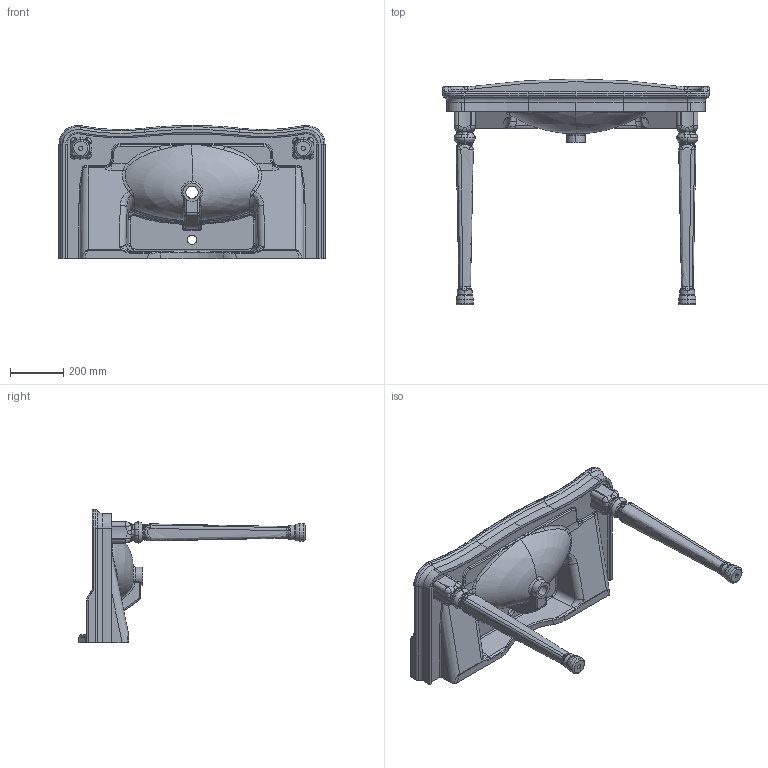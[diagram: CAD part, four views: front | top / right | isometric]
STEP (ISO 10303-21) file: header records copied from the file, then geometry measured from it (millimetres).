
FILE_DESCRIPTION (( 'STEP AP203' ), '1' );
FILE_NAME ('AN100+KL270.STEP', '2022-04-12T06:37:49', ( '' ), ( '' ), 'SwSTEP 2.0', 'SolidWorks 2021', '' );
FILE_SCHEMA (( 'CONFIG_CONTROL_DESIGN' ));
Products named in the file (1): AN100+KL270
Bounding box: 1000 x 849.26 x 500 mm (x, y, z)
Volume: 30162497.1 mm3; surface area: 1870354.7 mm2
Topology: 3 solids, 3 shells, 628 faces, 1548 edges, 896 vertices
Faces by surface type: bspline 276, cylinder 154, torus 137, plane 57, cone 4
Entity records: 77160 total; most frequent: CARTESIAN_POINT 64286, ORIENTED_EDGE 3038, DIRECTION 2309, EDGE_CURVE 1519, AXIS2_PLACEMENT_3D 1026, VERTEX_POINT 896, CIRCLE 673, EDGE_LOOP 639
